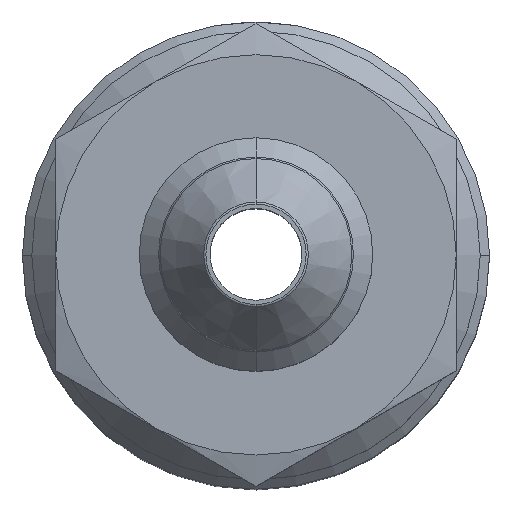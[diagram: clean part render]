
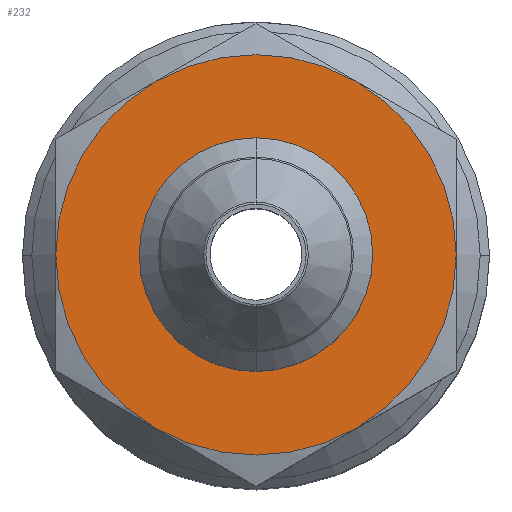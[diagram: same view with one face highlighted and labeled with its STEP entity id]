
A CAD part, top view. The second image highlights one B-rep face of the part: STEP entity #232.
In plain terms, the highlighted planar face has unit normal (0, 0, 1).
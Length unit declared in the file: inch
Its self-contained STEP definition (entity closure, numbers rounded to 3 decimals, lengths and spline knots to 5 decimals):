
#231 = EDGE_CURVE ( 'NONE', #336, #339, #1872, .T. ) ;
#232 = ADVANCED_FACE ( 'NONE', ( #1867, #1866 ), #1848, .T. ) ;
#233 = ORIENTED_EDGE ( 'NONE', *, *, #338, .T. ) ;
#234 = ORIENTED_EDGE ( 'NONE', *, *, #231, .T. ) ;
#235 = EDGE_LOOP ( 'NONE', ( #236, #237, #254, #255, #257, #258 ) ) ;
#236 = ORIENTED_EDGE ( 'NONE', *, *, #413, .T. ) ;
#237 = ORIENTED_EDGE ( 'NONE', *, *, #403, .T. ) ;
#252 = EDGE_LOOP ( 'NONE', ( #233, #234 ) ) ;
#254 = ORIENTED_EDGE ( 'NONE', *, *, #466, .T. ) ;
#255 = ORIENTED_EDGE ( 'NONE', *, *, #256, .T. ) ;
#256 = EDGE_CURVE ( 'NONE', #463, #429, #1941, .T. ) ;
#257 = ORIENTED_EDGE ( 'NONE', *, *, #428, .T. ) ;
#258 = ORIENTED_EDGE ( 'NONE', *, *, #417, .T. ) ;
#336 = VERTEX_POINT ( 'NONE', #2381 ) ;
#338 = EDGE_CURVE ( 'NONE', #339, #336, #2380, .T. ) ;
#339 = VERTEX_POINT ( 'NONE', #2375 ) ;
#403 = EDGE_CURVE ( 'NONE', #404, #467, #2477, .T. ) ;
#404 = VERTEX_POINT ( 'NONE', #2478 ) ;
#413 = EDGE_CURVE ( 'NONE', #419, #404, #2614, .T. ) ;
#417 = EDGE_CURVE ( 'NONE', #418, #419, #2608, .T. ) ;
#418 = VERTEX_POINT ( 'NONE', #2584 ) ;
#419 = VERTEX_POINT ( 'NONE', #2583 ) ;
#428 = EDGE_CURVE ( 'NONE', #429, #418, #2466, .T. ) ;
#429 = VERTEX_POINT ( 'NONE', #2462 ) ;
#463 = VERTEX_POINT ( 'NONE', #2714 ) ;
#466 = EDGE_CURVE ( 'NONE', #467, #463, #2705, .T. ) ;
#467 = VERTEX_POINT ( 'NONE', #2706 ) ;
#1844 = DIRECTION ( 'NONE',  ( -1., 0., 0. ) ) ;
#1845 = DIRECTION ( 'NONE',  ( 0., 0., 1. ) ) ;
#1846 = CARTESIAN_POINT ( 'NONE',  ( -0.1813, -0.71924, 0.4222 ) ) ;
#1847 = AXIS2_PLACEMENT_3D ( 'NONE', #1846, #1845, #1844 ) ;
#1848 = PLANE ( 'NONE',  #1847 ) ;
#1866 = FACE_OUTER_BOUND ( 'NONE', #235, .T. ) ;
#1867 = FACE_BOUND ( 'NONE', #252, .T. ) ;
#1868 = DIRECTION ( 'NONE',  ( -1., 0., 0. ) ) ;
#1869 = DIRECTION ( 'NONE',  ( 0., 0., -1. ) ) ;
#1870 = CARTESIAN_POINT ( 'NONE',  ( -0.5563, -0.06972, 0.4222 ) ) ;
#1871 = AXIS2_PLACEMENT_3D ( 'NONE', #1870, #1869, #1868 ) ;
#1872 = CIRCLE ( 'NONE', #1871, 0.2055 ) ;
#1918 = CARTESIAN_POINT ( 'NONE',  ( -0.5563, -0.06972, 0.4222 ) ) ;
#1938 = DIRECTION ( 'NONE',  ( -1., 0., 0. ) ) ;
#1939 = DIRECTION ( 'NONE',  ( 0., 0., 1. ) ) ;
#1940 = AXIS2_PLACEMENT_3D ( 'NONE', #1918, #1939, #1938 ) ;
#1941 = CIRCLE ( 'NONE', #1940, 0.375 ) ;
#2375 = CARTESIAN_POINT ( 'NONE',  ( -0.7618, -0.06972, 0.4222 ) ) ;
#2376 = DIRECTION ( 'NONE',  ( -1., 0., 0. ) ) ;
#2377 = DIRECTION ( 'NONE',  ( 0., 0., -1. ) ) ;
#2378 = CARTESIAN_POINT ( 'NONE',  ( -0.5563, -0.06972, 0.4222 ) ) ;
#2379 = AXIS2_PLACEMENT_3D ( 'NONE', #2378, #2377, #2376 ) ;
#2380 = CIRCLE ( 'NONE', #2379, 0.2055 ) ;
#2381 = CARTESIAN_POINT ( 'NONE',  ( -0.3508, -0.06972, 0.4222 ) ) ;
#2462 = CARTESIAN_POINT ( 'NONE',  ( -0.1813, -0.06972, 0.4222 ) ) ;
#2463 = DIRECTION ( 'NONE',  ( -1., 0., 0. ) ) ;
#2464 = DIRECTION ( 'NONE',  ( 0., 0., 1. ) ) ;
#2465 = AXIS2_PLACEMENT_3D ( 'NONE', #2523, #2464, #2463 ) ;
#2466 = CIRCLE ( 'NONE', #2465, 0.375 ) ;
#2473 = DIRECTION ( 'NONE',  ( -1., 0., 0. ) ) ;
#2474 = DIRECTION ( 'NONE',  ( 0., 0., 1. ) ) ;
#2475 = CARTESIAN_POINT ( 'NONE',  ( -0.5563, -0.06972, 0.4222 ) ) ;
#2476 = AXIS2_PLACEMENT_3D ( 'NONE', #2475, #2474, #2473 ) ;
#2477 = CIRCLE ( 'NONE', #2476, 0.375 ) ;
#2478 = CARTESIAN_POINT ( 'NONE',  ( -0.9313, -0.06972, 0.4222 ) ) ;
#2523 = CARTESIAN_POINT ( 'NONE',  ( -0.5563, -0.06972, 0.4222 ) ) ;
#2583 = CARTESIAN_POINT ( 'NONE',  ( -0.7438, 0.25504, 0.4222 ) ) ;
#2584 = CARTESIAN_POINT ( 'NONE',  ( -0.3688, 0.25504, 0.4222 ) ) ;
#2585 = DIRECTION ( 'NONE',  ( -1., 0., 0. ) ) ;
#2599 = DIRECTION ( 'NONE',  ( 0., 0., 1. ) ) ;
#2600 = CARTESIAN_POINT ( 'NONE',  ( -0.5563, -0.06972, 0.4222 ) ) ;
#2601 = AXIS2_PLACEMENT_3D ( 'NONE', #2600, #2599, #2585 ) ;
#2608 = CIRCLE ( 'NONE', #2601, 0.375 ) ;
#2611 = DIRECTION ( 'NONE',  ( -1., 0., 0. ) ) ;
#2612 = DIRECTION ( 'NONE',  ( 0., 0., 1. ) ) ;
#2613 = AXIS2_PLACEMENT_3D ( 'NONE', #2619, #2612, #2611 ) ;
#2614 = CIRCLE ( 'NONE', #2613, 0.375 ) ;
#2619 = CARTESIAN_POINT ( 'NONE',  ( -0.5563, -0.06972, 0.4222 ) ) ;
#2701 = DIRECTION ( 'NONE',  ( -1., 0., 0. ) ) ;
#2702 = DIRECTION ( 'NONE',  ( 0., 0., 1. ) ) ;
#2703 = CARTESIAN_POINT ( 'NONE',  ( -0.5563, -0.06972, 0.4222 ) ) ;
#2704 = AXIS2_PLACEMENT_3D ( 'NONE', #2703, #2702, #2701 ) ;
#2705 = CIRCLE ( 'NONE', #2704, 0.375 ) ;
#2706 = CARTESIAN_POINT ( 'NONE',  ( -0.7438, -0.39448, 0.4222 ) ) ;
#2714 = CARTESIAN_POINT ( 'NONE',  ( -0.3688, -0.39448, 0.4222 ) ) ;
